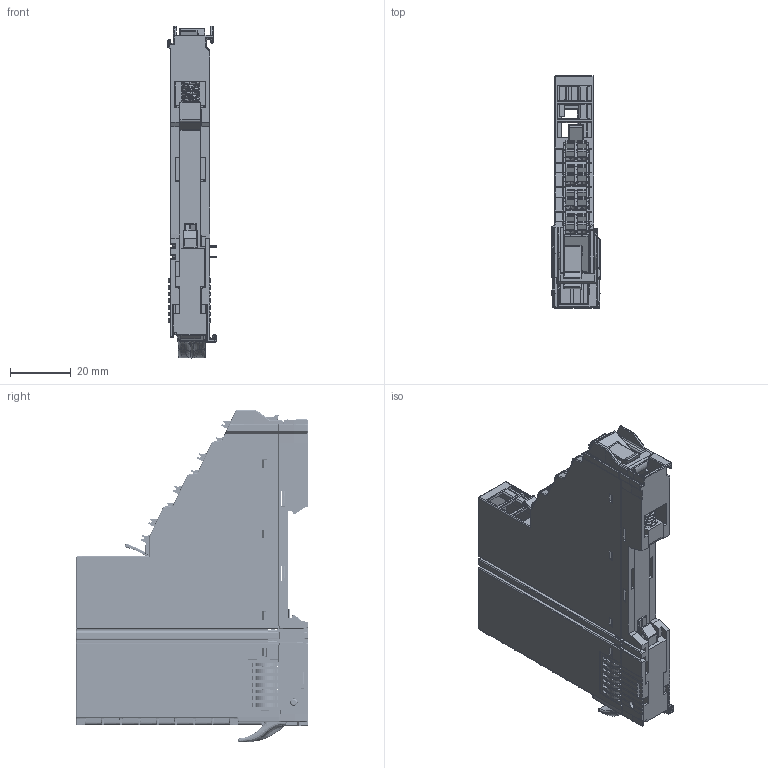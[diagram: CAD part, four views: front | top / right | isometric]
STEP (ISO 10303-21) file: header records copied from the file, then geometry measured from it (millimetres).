
FILE_DESCRIPTION((''),'2;1');
FILE_NAME('SLIO-TYPE17_SW0001','2022-04-26T10:26:16',('TBothe'),(''),'CREO PARAMETRIC BY PTC INC, 2020454','CREO PARAMETRIC BY PTC INC, 2020454','');
FILE_SCHEMA(('CONFIG_CONTROL_DESIGN','SHAPE_APPEARANCE_LAYERS_GROUPS'));
Products named in the file (1): SLIO-TYPE17_SW0001
Bounding box: 15.95 x 76 x 108.87 mm (x, y, z)
Volume: 28777.3 mm3; surface area: 51147.5 mm2
Topology: 2 solids, 2 shells, 9718 faces, 27584 edges, 17734 vertices
Faces by surface type: plane 6935, cylinder 1779, torus 411, bspline 329, sphere 174, cone 82, extrusion 8
Entity records: 386836 total; most frequent: CARTESIAN_POINT 81016, ORIENTED_EDGE 54934, DIRECTION 48332, EDGE_CURVE 27467, VECTOR 21524, LINE 21516, VERTEX_POINT 17734, AXIS2_PLACEMENT_3D 13404
